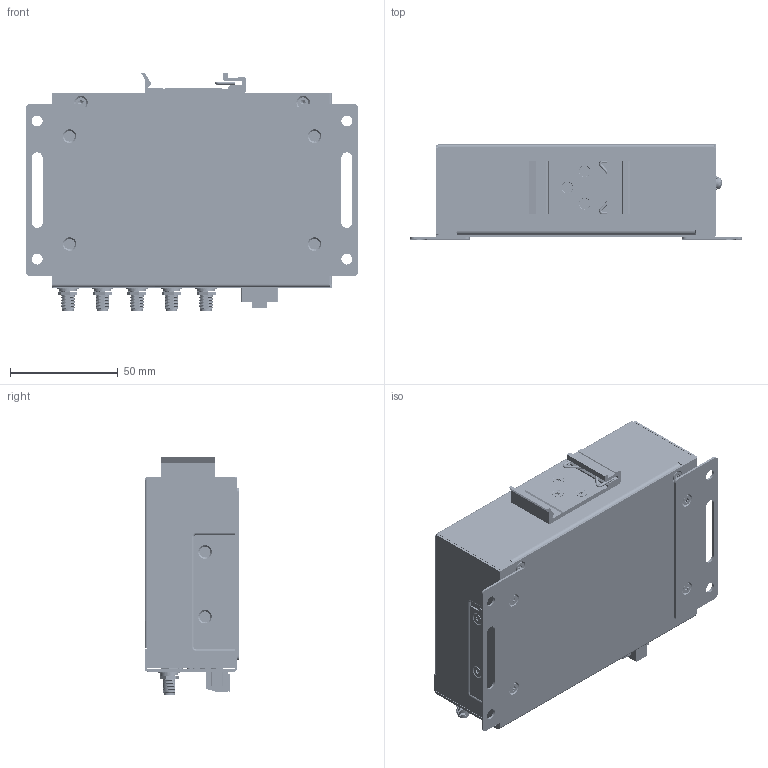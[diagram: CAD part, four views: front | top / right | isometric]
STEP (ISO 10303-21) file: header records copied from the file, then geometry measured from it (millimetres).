
FILE_DESCRIPTION (( 'STEP AP214' ), '1' );
FILE_NAME ('ICR-4172.STEP', '2025-11-19T11:51:12', ( '' ), ( '' ), 'SwSTEP 2.0', 'SolidWorks 2024', '' );
FILE_SCHEMA (( 'AUTOMOTIVE_DESIGN' ));
Length unit declared in the file: millimetre
Products named in the file (48): CON_WR2; ICR-4172; ANT_PG_L150_SMA_I; Micro_SD_card_holder_part_1; SCR_ZC_M3_L10_PH_PW; 21BB-CLK3-000001; Battery_SMT_holder_Keystone-PN3000; SCR_ZC_M3_L6_PH_PW; PCB_ICR-4(1,2)xx; ChassisTop; AlluminiumCooler; Dip_Switch_2_positon; PCI_Female_Connector_67P; Pin_header_6x2P; Micro_SD_card_holder_part_2; V4I_ICR-41(2)XX_FIL_CDB; PAD_TH_W28_L14_H2,5; USB_3_0_type_A; Bottom_Base_for_ICR-4(1,2)xx; PCI_Female_Connector_52P; ChassisBottom; Micro_SD_card_holder; Radial_THT_Capacitor; Pluggable_Term_Blk_2P; Lightpipe_4P; BAT_CR1225; Tact_Switch_right_angle; SIM_holder; DIN_25_AL; ChassisSimCover; SCR_BK_M3_L5_PH_FL_TW; SCR_BK_M3_L5_PH_FL_TW_GLUE; DIN_clip_set_ICR_series; Chassis_package-ICR-4(1,2)xx; SCR_BK_M3_L4_TX8_FL_SCR; ThermalTape; B-ICR41(2)xx-4_B-ICR41xxLS-4; chassisWallMount; MOD_FN990A28-HP; POST_D4,5xL5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
Assembly tree (68 placements, depth 5):
  ICR-4172
    Chassis_package-ICR-4(1,2)xx
      Case_for_ICR-4(1,2)xx
        Bottom_Base_for_ICR-4(1,2)xx
          ChassisBottom
          CDS_M_H5_W7,3_CHM3  x4
        ChassisTop
      ChassisSimCover
      ThermalTape
      AlluminiumCooler
      chassisWallMount  x2
    B-ICR41(2)xx-4_B-ICR41xxLS-4
      PCB_ICR-4(1,2)xx
      PCI_Female_Connector_52P
      POST_D4,5xL5
      Battery_SMT_holder_Keystone-PN3000
      Lightpipe_4P  x2
      RJ45_2x_Connector
      USB_3_0_type_A
      POST_D6xL4
      PCI_Female_Connector_67P
      SIM_holder  x2
      Tact_Switch_right_angle
      Radial_THT_Capacitor
      Pluggable_Term_Blk_2P
      Micro_SD_card_holder
        Micro_SD_card_holder_part_1
        Micro_SD_card_holder_part_2
      Dip_Switch_2_positon
      Pin_header_6x2P
    MOD_FN990A28-HP
    BAT_CR1225
    Thermal_pad_46x30
    PAD_TH_W28_L14_H2,5  x2
    Label_41W0C4G1
    Label_SIM_SD_IO_configuration_SIM
    ANT_PG_L150_SMA_I  x5
    CON_WR2
    DIN_clip_set_ICR_series
      DIN_25_AL
      SCR_BK_M3_L5_PH_FL_TW_GLUE  x3
    SCR_ZC_M3_L6_PH_PW  x3
    SCR_ZC_M3_L10_PH_PW
    SCR_BK_M3_L4_TX8_FL_SCR  x4
    SCR_BK_M3_L5_PH_FL_TW  x6
    SCR_ZC_M3_L6_PH_PW_2
  21BB-CLK3-000001
  V4I_ICR-41(2)XX_FIL_CDB
Bounding box: 153.9 x 44 x 110.25 mm (x, y, z)
Volume: 97609 mm3; surface area: 201446 mm2
Topology: 172 solids, 221 shells, 15430 faces, 42208 edges, 27681 vertices
Faces by surface type: plane 8765, bspline 3198, cylinder 2968, cone 346, torus 119, sphere 34
Entity records: 509014 total; most frequent: CARTESIAN_POINT 150271, ORIENTED_EDGE 71598, DIRECTION 54041, EDGE_CURVE 35907, VERTEX_POINT 23510, LINE 23107, VECTOR 23107, AXIS2_PLACEMENT_3D 15467
